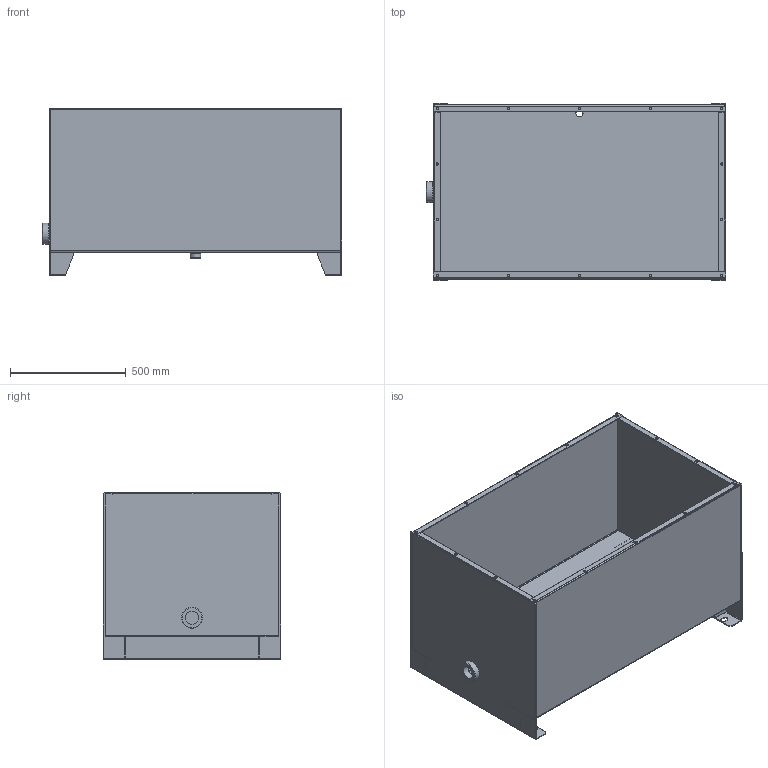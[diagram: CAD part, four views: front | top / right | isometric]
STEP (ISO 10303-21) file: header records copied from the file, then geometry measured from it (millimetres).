
FILE_DESCRIPTION (( 'STEP AP203' ), '1' );
FILE_NAME ('CFP400.STEP', '2018-04-27T06:15:24', ( '' ), ( '' ), 'SwSTEP 2.0', 'SolidWorks 2016', '' );
FILE_SCHEMA (( 'CONFIG_CONTROL_DESIGN' ));
Length unit declared in the file: millimetre
Products named in the file (1): CFP400
Bounding box: 1290 x 765 x 720 mm (x, y, z)
Volume: 15334396.3 mm3; surface area: 7658726.6 mm2
Topology: 19 solids, 19 shells, 580 faces, 1297 edges, 755 vertices
Faces by surface type: plane 486, cylinder 62, cone 32
Full cylindrical faces by diameter (mm): 8.5 x14, 10.5 x14, 30.75 x2, 45 x1, 57 x1, 65 x1, 90 x1
Entity records: 15149 total; most frequent: DIRECTION 2530, CARTESIAN_POINT 2529, ORIENTED_EDGE 2424, EDGE_CURVE 1212, VECTOR 1056, LINE 1056, AXIS2_PLACEMENT_3D 737, VERTEX_POINT 736
